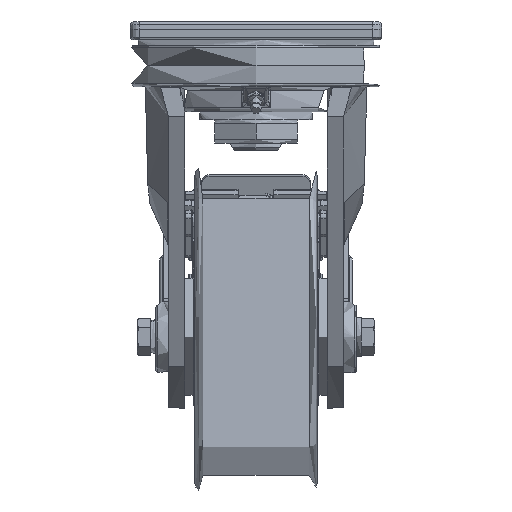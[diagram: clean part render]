
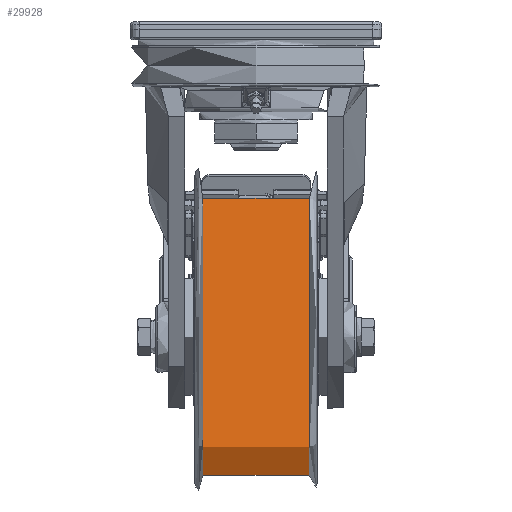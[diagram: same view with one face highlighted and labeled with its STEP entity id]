
A CAD part, front view. The second image highlights one B-rep face of the part: STEP entity #29928.
In plain terms, the highlighted free-form (B-spline) face has degree [2, 2] with [3, 9] control points.
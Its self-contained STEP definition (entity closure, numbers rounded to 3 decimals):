
#772=(
BOUNDED_SURFACE()
B_SPLINE_SURFACE(2,2,((#42200,#42201,#42202,#42203,#42204,#42205,#42206,
#42207,#42208),(#42209,#42210,#42211,#42212,#42213,#42214,#42215,#42216,
#42217),(#42218,#42219,#42220,#42221,#42222,#42223,#42224,#42225,#42226)),
 .UNSPECIFIED.,.F.,.T.,.F.)
B_SPLINE_SURFACE_WITH_KNOTS((3,3),(3,2,2,2,3),(-0.119,0.119),
(-3.142,-1.571,0.,1.571,3.142),
 .UNSPECIFIED.)
GEOMETRIC_REPRESENTATION_ITEM()
RATIONAL_B_SPLINE_SURFACE(((1.,0.707,1.,0.707,1.,
0.707,1.,0.707,1.),(0.993,0.702,
0.993,0.702,0.993,0.702,
0.993,0.702,0.993),(1.,0.707,
1.,0.707,1.,0.707,1.,0.707,1.)))
REPRESENTATION_ITEM('')
SURFACE()
);
#7222=FACE_OUTER_BOUND('',#8993,.T.);
#8993=EDGE_LOOP('',(#19986,#19987,#19988,#19989,#19990,#19991));
#10948=CIRCLE('',#31792,98.242);
#10949=CIRCLE('',#31793,98.242);
#10953=CIRCLE('',#31797,98.242);
#10954=CIRCLE('',#31798,98.242);
#10955=CIRCLE('',#31799,250.);
#12132=VERTEX_POINT('',#42191);
#12133=VERTEX_POINT('',#42192);
#12136=VERTEX_POINT('',#42227);
#12137=VERTEX_POINT('',#42228);
#15204=EDGE_CURVE('',#12132,#12133,#10948,.T.);
#15205=EDGE_CURVE('',#12133,#12132,#10949,.T.);
#15209=EDGE_CURVE('',#12136,#12137,#10953,.T.);
#15210=EDGE_CURVE('',#12137,#12136,#10954,.T.);
#15211=EDGE_CURVE('',#12137,#12133,#10955,.T.);
#19986=ORIENTED_EDGE('',*,*,#15209,.F.);
#19987=ORIENTED_EDGE('',*,*,#15210,.F.);
#19988=ORIENTED_EDGE('',*,*,#15211,.T.);
#19989=ORIENTED_EDGE('',*,*,#15205,.T.);
#19990=ORIENTED_EDGE('',*,*,#15204,.T.);
#19991=ORIENTED_EDGE('',*,*,#15211,.F.);
#29928=ADVANCED_FACE('',(#7222),#772,.F.);
#31792=AXIS2_PLACEMENT_3D('',#42193,#34554,#34555);
#31793=AXIS2_PLACEMENT_3D('',#42194,#34556,#34557);
#31797=AXIS2_PLACEMENT_3D('',#42229,#34564,#34565);
#31798=AXIS2_PLACEMENT_3D('',#42230,#34566,#34567);
#31799=AXIS2_PLACEMENT_3D('',#42231,#34568,#34569);
#34554=DIRECTION('center_axis',(1.,0.,0.));
#34555=DIRECTION('ref_axis',(0.,0.622,-0.783));
#34556=DIRECTION('center_axis',(1.,0.,0.));
#34557=DIRECTION('ref_axis',(0.,0.622,-0.783));
#34564=DIRECTION('center_axis',(1.,0.,0.));
#34565=DIRECTION('ref_axis',(0.,0.622,-0.783));
#34566=DIRECTION('center_axis',(1.,0.,0.));
#34567=DIRECTION('ref_axis',(0.,0.622,-0.783));
#34568=DIRECTION('center_axis',(0.,-0.622,
0.783));
#34569=DIRECTION('ref_axis',(0.,0.783,0.622));
#42191=CARTESIAN_POINT('',(-29.592,121.09,-247.939));
#42192=CARTESIAN_POINT('',(-29.592,136.939,-109.91));
#42193=CARTESIAN_POINT('Origin',(-29.592,60.,-171.));
#42194=CARTESIAN_POINT('Origin',(-29.592,60.,-171.));
#42200=CARTESIAN_POINT('Ctrl Pts',(-29.592,136.939,-109.91));
#42201=CARTESIAN_POINT('Ctrl Pts',(-29.592,75.848,-32.971));
#42202=CARTESIAN_POINT('Ctrl Pts',(-29.592,-1.09,-94.061));
#42203=CARTESIAN_POINT('Ctrl Pts',(-29.592,-78.029,
-155.152));
#42204=CARTESIAN_POINT('Ctrl Pts',(-29.592,-16.939,
-232.09));
#42205=CARTESIAN_POINT('Ctrl Pts',(-29.592,44.152,-309.029));
#42206=CARTESIAN_POINT('Ctrl Pts',(-29.592,121.09,-247.939));
#42207=CARTESIAN_POINT('Ctrl Pts',(-29.592,198.029,-186.848));
#42208=CARTESIAN_POINT('Ctrl Pts',(-29.592,136.939,-109.91));
#42209=CARTESIAN_POINT('Ctrl Pts',(0.,139.701,
-107.716));
#42210=CARTESIAN_POINT('Ctrl Pts',(0.,76.417,
-28.015));
#42211=CARTESIAN_POINT('Ctrl Pts',(0.,-3.284,
-91.299));
#42212=CARTESIAN_POINT('Ctrl Pts',(0.,-82.985,
-154.583));
#42213=CARTESIAN_POINT('Ctrl Pts',(0.,-19.701,
-234.284));
#42214=CARTESIAN_POINT('Ctrl Pts',(0.,43.583,
-313.985));
#42215=CARTESIAN_POINT('Ctrl Pts',(0.,123.284,
-250.701));
#42216=CARTESIAN_POINT('Ctrl Pts',(0.,202.985,
-187.417));
#42217=CARTESIAN_POINT('Ctrl Pts',(0.,139.701,
-107.716));
#42218=CARTESIAN_POINT('Ctrl Pts',(29.592,136.939,-109.91));
#42219=CARTESIAN_POINT('Ctrl Pts',(29.592,75.848,-32.971));
#42220=CARTESIAN_POINT('Ctrl Pts',(29.592,-1.09,-94.061));
#42221=CARTESIAN_POINT('Ctrl Pts',(29.592,-78.029,-155.152));
#42222=CARTESIAN_POINT('Ctrl Pts',(29.592,-16.939,-232.09));
#42223=CARTESIAN_POINT('Ctrl Pts',(29.592,44.152,-309.029));
#42224=CARTESIAN_POINT('Ctrl Pts',(29.592,121.09,-247.939));
#42225=CARTESIAN_POINT('Ctrl Pts',(29.592,198.029,-186.848));
#42226=CARTESIAN_POINT('Ctrl Pts',(29.592,136.939,-109.91));
#42227=CARTESIAN_POINT('',(29.592,121.09,-247.939));
#42228=CARTESIAN_POINT('',(29.592,136.939,-109.91));
#42229=CARTESIAN_POINT('Origin',(29.592,60.,-171.));
#42230=CARTESIAN_POINT('Origin',(29.592,60.,-171.));
#42231=CARTESIAN_POINT('Origin',(0.,-57.473,
-264.275));
